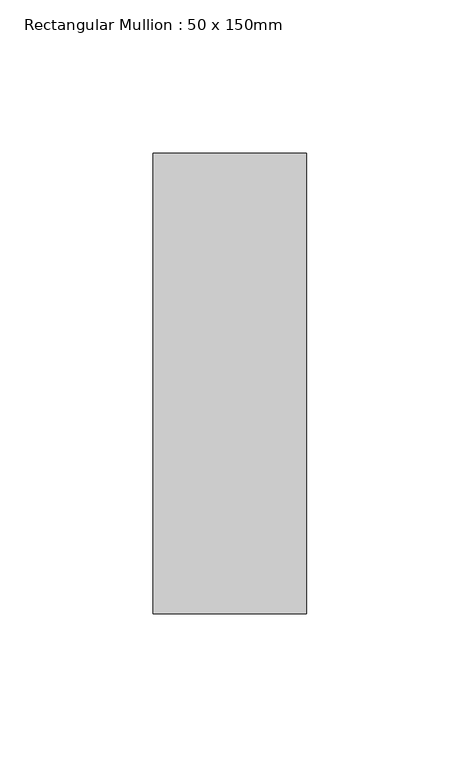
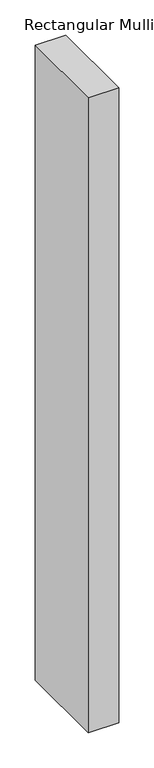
"""IFC4 building model written with IfcOpenShell, lengths in millimetres: member geometry, Rectangular Mullion : 50 x 150mm."""

import ifcopenshell
import ifcopenshell.guid

model = None  # the IFC model being written
_history = None  # IfcOwnerHistory: only IFC2X3 demands one
_inside = {}  # id of a spatial element -> (the spatial element, [elements in it])
_under = {}  # id of a project, library or spatial element -> (it, [spatial elements below it])
_declared = {}  # id of a project -> (the project, [libraries it declares])
_typed = {}  # id of a type object -> (the type object, [elements of that type])
_made_of = {}  # id of a material, layer set ... -> (it, [elements and type objects made of it])


def new_model(schema):
    """Start an empty IFC model of exactly this schema.

    Asked for "IFC4X3", IfcOpenShell would pick the latest addendum, in which some entities
    have other attributes; the version numbers below select the first issue.
    IFC2X3 requires an IfcOwnerHistory on every rooted entity: one is made here for all.
    """
    global model, _history
    if schema == "IFC4X3":
        model = ifcopenshell.file(schema_version=(4, 3, 0, 0))
    else:
        model = ifcopenshell.file(schema=schema)
    _inside.clear()
    _under.clear()
    _declared.clear()
    _typed.clear()
    _made_of.clear()
    _history = None
    if model.schema == "IFC2X3":
        org = make("IfcOrganization", Name="unknown")
        user = make(
            "IfcPersonAndOrganization",
            ThePerson=make("IfcPerson", FamilyName="unknown"),
            TheOrganization=org,
        )
        app = make(
            "IfcApplication",
            ApplicationDeveloper=org,
            Version="unknown",
            ApplicationFullName="unknown",
            ApplicationIdentifier="unknown",
        )
        _history = make(
            "IfcOwnerHistory",
            OwningUser=user,
            OwningApplication=app,
            ChangeAction="ADDED",
            CreationDate=0,
        )
    return model


def make(cls, **values):
    """One entity of the class cls with the attributes given. An attribute that is None is left unset."""
    return model.create_entity(
        cls, **{name: value for name, value in values.items() if value is not None}
    )


def rooted(cls, **values):
    """An entity with a GlobalId (a new one), such as an element, a storey or a relation."""
    return make(cls, GlobalId=ifcopenshell.guid.new(), OwnerHistory=_history, **values)


def si_unit(unit_type, name, prefix=None):
    """IfcSIUnit, for example si_unit("LENGTHUNIT", "METRE", prefix="MILLI")."""
    return make("IfcSIUnit", UnitType=unit_type, Prefix=prefix, Name=name)


def assignment(units):
    """IfcUnitAssignment: the units of a project."""
    return None if units is None else make("IfcUnitAssignment", Units=units)


def point(xyz):
    """IfcCartesianPoint."""
    return None if xyz is None else make("IfcCartesianPoint", Coordinates=xyz)


def direction(xyz):
    """IfcDirection."""
    return None if xyz is None else make("IfcDirection", DirectionRatios=xyz)


def frame(location, z_axis=None, x_axis=None):
    """IfcAxis2Placement3D, a coordinate frame: its origin and axes. An axis left out is left unset."""
    return make(
        "IfcAxis2Placement3D",
        Location=point(location),
        Axis=direction(z_axis),
        RefDirection=direction(x_axis),
    )


def origin():
    """The frame at (0, 0, 0) with its axes left unset."""
    return frame((0.0, 0.0, 0.0))


def place(relative_to, where):
    """IfcLocalPlacement: puts the frame where relative to a parent placement (None: the world)."""
    return make(
        "IfcLocalPlacement", PlacementRelTo=relative_to, RelativePlacement=where
    )


def context(
    kind, dimensions, precision=None, world=None, true_north=None, identifier=None
):
    """IfcGeometricRepresentationContext, for example the 3D "Model" context."""
    return make(
        "IfcGeometricRepresentationContext",
        ContextIdentifier=identifier,
        ContextType=kind,
        CoordinateSpaceDimension=dimensions,
        Precision=precision,
        WorldCoordinateSystem=world,
        TrueNorth=true_north,
    )


def project(units=None, contexts=None):
    """IfcProject with its units and contexts."""
    return rooted(
        "IfcProject",
        Name="project",
        RepresentationContexts=contexts,
        UnitsInContext=assignment(units),
    )


def spatial(cls, under=None, at=None, **own):
    """A site, building, storey or space (cls), placed at a placement, below another one or the project."""
    s = rooted(cls, ObjectPlacement=at, **own)
    if under is not None:
        _under.setdefault(under.id(), (under, []))[1].append(s)
    return s


def polyline(points):
    """IfcPolyline through the points."""
    return make("IfcPolyline", Points=[point(p) for p in points])


def outline(outer, holes=None, kind="AREA"):
    """IfcArbitraryClosedProfileDef: a profile drawn as a closed curve; with holes, ...WithVoids."""
    if holes is None:
        return make("IfcArbitraryClosedProfileDef", ProfileType=kind, OuterCurve=outer)
    return make(
        "IfcArbitraryProfileDefWithVoids",
        ProfileType=kind,
        OuterCurve=outer,
        InnerCurves=holes,
    )


def extrude(swept, where, along, depth):
    """IfcExtrudedAreaSolid: the profile swept, set in the frame where, extruded along a direction by depth."""
    return make(
        "IfcExtrudedAreaSolid",
        SweptArea=swept,
        Position=where,
        ExtrudedDirection=direction(along),
        Depth=depth,
    )


def shape(context_of_items, identifier, shape_type, items):
    """IfcShapeRepresentation: the items that make up one representation, for example the "Body"."""
    return make(
        "IfcShapeRepresentation",
        ContextOfItems=context_of_items,
        RepresentationIdentifier=identifier,
        RepresentationType=shape_type,
        Items=items,
    )


def source(mapping_origin, context_of_items, identifier, shape_type, items):
    """IfcRepresentationMap: a shape defined once, which mapped items show again and again."""
    return make(
        "IfcRepresentationMap",
        MappingOrigin=mapping_origin,
        MappedRepresentation=shape(context_of_items, identifier, shape_type, items),
    )


def transform(
    local_origin,
    x_axis=None,
    y_axis=None,
    z_axis=None,
    scale=None,
    scale2=None,
    scale3=None,
    uniform=True,
):
    """IfcCartesianTransformationOperator3D, or its non-uniform kind. x_axis, y_axis, z_axis: its Axis1, 2, 3."""
    if uniform:
        return make(
            "IfcCartesianTransformationOperator3D",
            Axis1=direction(x_axis),
            Axis2=direction(y_axis),
            LocalOrigin=point(local_origin),
            Scale=scale,
            Axis3=direction(z_axis),
        )
    return make(
        "IfcCartesianTransformationOperator3DnonUniform",
        Axis1=direction(x_axis),
        Axis2=direction(y_axis),
        LocalOrigin=point(local_origin),
        Scale=scale,
        Axis3=direction(z_axis),
        Scale2=scale2,
        Scale3=scale3,
    )


def mapped(mapping_source, mapping_target):
    """IfcMappedItem: shows the shape of a source again, moved by a transform."""
    return make(
        "IfcMappedItem", MappingSource=mapping_source, MappingTarget=mapping_target
    )


def made_of(thing, what):
    """Note that an element or type object is made of a material, layer set ...; save() writes the relation."""
    if what is not None:
        _made_of.setdefault(what.id(), (what, []))[1].append(thing)
    return thing


def element(
    cls,
    number,
    at=None,
    inside=None,
    cuts=None,
    type_object=None,
    material=None,
    context=None,
    identifier="Body",
    shape_type=None,
    held_by="IfcProductDefinitionShape",
    body=None,
    shapes=None,
    **own,
):
    """One element of the class cls, such as IfcWall. Its Tag is "e" and its number.

    at: its placement. inside: the storey or other place that contains it. cuts: it is an
    opening in that element (IfcRelVoidsElement). A single representation is given by context,
    identifier, shape_type and body (its items); several are given by shapes. held_by: the class
    of the entity that holds the representations. save() writes the other relations.
    """
    e = rooted(cls, Tag="e%d" % number, ObjectPlacement=at, **own)
    if body is not None:
        shapes = [shape(context, identifier, shape_type, body)]
    if shapes is not None:
        e.Representation = make(held_by, Representations=shapes)
    if inside is not None:
        _inside.setdefault(inside.id(), (inside, []))[1].append(e)
    if cuts is not None:
        rooted(
            "IfcRelVoidsElement", RelatingBuildingElement=cuts, RelatedOpeningElement=e
        )
    if type_object is not None:
        _typed.setdefault(type_object.id(), (type_object, []))[1].append(e)
    return made_of(e, material)


def aggregate(whole, parts):
    """IfcRelAggregates: a whole, such as a stair, and the parts it consists of."""
    return rooted("IfcRelAggregates", RelatingObject=whole, RelatedObjects=parts)


def save(model, path):
    """Write the relations noted so far, then the file.

    IfcRelAggregates (storeys below a building ...), IfcRelContainedInSpatialStructure (elements
    in a storey), IfcRelDefinesByType, IfcRelAssociatesMaterial and IfcRelDeclares: one each for
    every whole, place, type object, material and project.
    """
    for whole, parts in _under.values():
        aggregate(whole, parts)
    for where, things in _inside.values():
        rooted(
            "IfcRelContainedInSpatialStructure",
            RelatedElements=things,
            RelatingStructure=where,
        )
    for kind, things in _typed.values():
        rooted("IfcRelDefinesByType", RelatedObjects=things, RelatingType=kind)
    for what, things in _made_of.values():
        rooted("IfcRelAssociatesMaterial", RelatedObjects=things, RelatingMaterial=what)
    for by, libraries in _declared.values():
        rooted("IfcRelDeclares", RelatingContext=by, RelatedDefinitions=libraries)
    model.write(path)


def rectangular_mullion_50_x_150mm_2bb03180(model_context):
    return source(origin(), model_context, "Body", "SweptSolid", [
        extrude(outline(polyline([(25.0, 75.0), (25.0, -75.0), (-25.0, -75.0), (-25.0, 75.0), (25.0, 75.0)])), frame((0.0, 0.0, -1098.9999997), z_axis=(0.0, 0.0, 1.0), x_axis=(1.0, 0.0, 0.0)), (0.0, 0.0, 1.0), 1098.9999997),
    ])


if __name__ == "__main__":
    model = new_model("IFC4")
    model_context = context("Model", 3, world=origin())
    ifc_project = project(units=[si_unit("LENGTHUNIT", "METRE", prefix="MILLI")], contexts=[model_context])
    site = spatial("IfcSite", under=ifc_project)
    building = spatial("IfcBuilding", under=site)
    placement = place(None, origin())
    rectangular_mullion_50_x_150mm_shape = rectangular_mullion_50_x_150mm_2bb03180(model_context)
    element("IfcMember", 1, ObjectType="Rectangular Mullion : 50 x 150mm", at=placement, inside=building, context=model_context, shape_type="MappedRepresentation", body=[
        mapped(rectangular_mullion_50_x_150mm_shape, transform((0.0, 0.0, 0.0), x_axis=(1.0, 0.0, 0.0), y_axis=(0.0, 1.0, 0.0), z_axis=(0.0, 0.0, 1.0))),
    ])
    save(model, "model.ifc")
